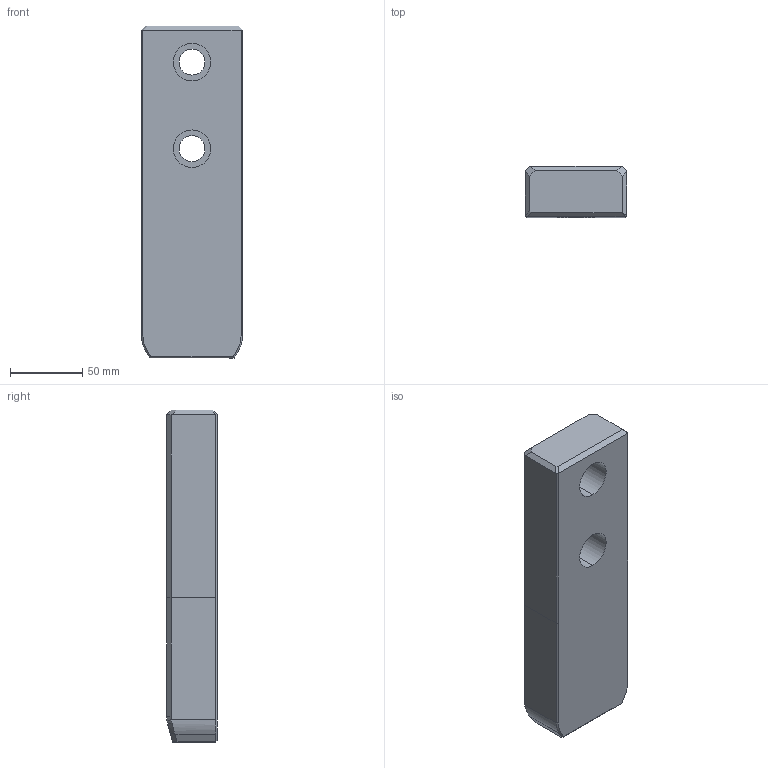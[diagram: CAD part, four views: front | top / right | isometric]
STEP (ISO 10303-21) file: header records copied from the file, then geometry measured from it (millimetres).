
FILE_DESCRIPTION((''),'2;1');
FILE_NAME('','2010-08-30T14:07:43+09:00',('misumi'),(''),'M/STEP i/f 1R2-14','CADmeister v5.1','');
FILE_SCHEMA(('AUTOMOTIVE_DESIGN'));
Length unit declared in the file: millimetre
Products named in the file (1): OGPZ70-230
Bounding box: 70 x 35 x 230 mm (x, y, z)
Volume: 528328.6 mm3; surface area: 54819.7 mm2
Topology: 1 solids, 1 shells, 53 faces, 126 edges, 77 vertices
Faces by surface type: plane 34, cylinder 11, cone 4, bspline 4
Entity records: 1818 total; most frequent: CARTESIAN_POINT 521, ORIENTED_EDGE 252, DIRECTION 238, EDGE_CURVE 126, LINE 90, VECTOR 90, VERTEX_POINT 77, AXIS2_PLACEMENT_3D 74
